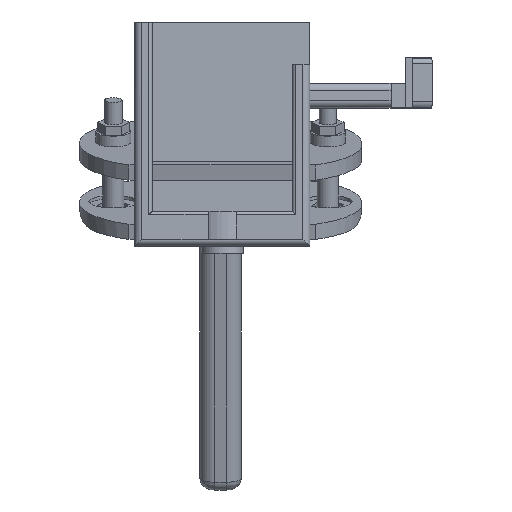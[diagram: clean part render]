
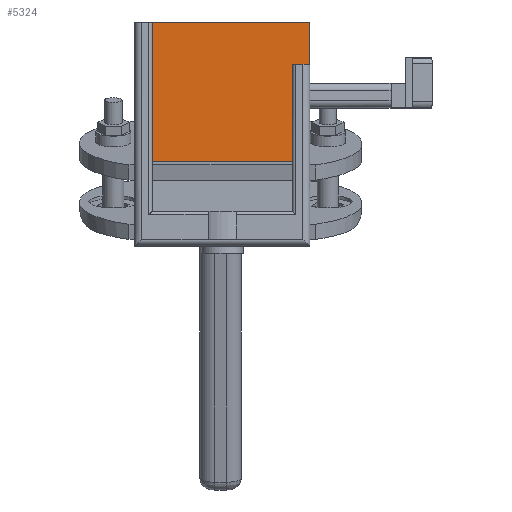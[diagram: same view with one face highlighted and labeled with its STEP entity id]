
A CAD part, top view. The second image highlights one B-rep face of the part: STEP entity #5324.
In plain terms, the highlighted planar face has unit normal (0, 0, 1).
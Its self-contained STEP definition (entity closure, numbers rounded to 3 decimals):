
#1821 = PLANE('',#1822);
#1822 = AXIS2_PLACEMENT_3D('',#1823,#1824,#1825);
#1823 = CARTESIAN_POINT('',(-43.276,26.312,
    46.517));
#1824 = DIRECTION('',(1.,0.,0.));
#1825 = DIRECTION('',(0.,0.,-1.));
#3258 = PLANE('',#3259);
#3259 = AXIS2_PLACEMENT_3D('',#3260,#3261,#3262);
#3260 = CARTESIAN_POINT('',(-46.992,26.312,
    18.808));
#3261 = DIRECTION('',(0.,1.,0.));
#3262 = DIRECTION('',(0.,0.,1.));
#3423 = EDGE_CURVE('',#3424,#3426,#3428,.T.);
#3424 = VERTEX_POINT('',#3425);
#3425 = CARTESIAN_POINT('',(-43.276,26.312,
    19.517));
#3426 = VERTEX_POINT('',#3427);
#3427 = CARTESIAN_POINT('',(-43.276,-1.448,
    19.517));
#3428 = SURFACE_CURVE('',#3429,(#3433,#3440),.PCURVE_S1.);
#3429 = LINE('',#3430,#3431);
#3430 = CARTESIAN_POINT('',(-43.276,38.312,
    19.517));
#3431 = VECTOR('',#3432,1.);
#3432 = DIRECTION('',(0.,-1.,0.));
#3433 = PCURVE('',#1821,#3434);
#3434 = DEFINITIONAL_REPRESENTATION('',(#3435),#3439);
#3435 = LINE('',#3436,#3437);
#3436 = CARTESIAN_POINT('',(27.,12.));
#3437 = VECTOR('',#3438,1.);
#3438 = DIRECTION('',(0.,-1.));
#3439 = ( GEOMETRIC_REPRESENTATION_CONTEXT(2) 
PARAMETRIC_REPRESENTATION_CONTEXT() REPRESENTATION_CONTEXT('2D SPACE',''
  ) );
#3440 = PCURVE('',#3441,#3446);
#3441 = PLANE('',#3442);
#3442 = AXIS2_PLACEMENT_3D('',#3443,#3444,#3445);
#3443 = CARTESIAN_POINT('',(-91.276,38.312,
    19.517));
#3444 = DIRECTION('',(0.,0.,-1.));
#3445 = DIRECTION('',(-1.,0.,0.));
#3446 = DEFINITIONAL_REPRESENTATION('',(#3447),#3451);
#3447 = LINE('',#3448,#3449);
#3448 = CARTESIAN_POINT('',(-48.,0.));
#3449 = VECTOR('',#3450,1.);
#3450 = DIRECTION('',(0.,-1.));
#3451 = ( GEOMETRIC_REPRESENTATION_CONTEXT(2) 
PARAMETRIC_REPRESENTATION_CONTEXT() REPRESENTATION_CONTEXT('2D SPACE',''
  ) );
#3469 = PLANE('',#3470);
#3470 = AXIS2_PLACEMENT_3D('',#3471,#3472,#3473);
#3471 = CARTESIAN_POINT('',(-26.599,10.504,
    -25.085));
#3472 = DIRECTION('',(0.,-0.966,-0.259)
  );
#3473 = DIRECTION('',(0.,0.259,-0.966
    ));
#3617 = CYLINDRICAL_SURFACE('',#3618,2.);
#3618 = AXIS2_PLACEMENT_3D('',#3619,#3620,#3621);
#3619 = CARTESIAN_POINT('',(-43.276,38.312,
    19.517));
#3620 = DIRECTION('',(0.,-1.,0.));
#3621 = DIRECTION('',(0.,0.,-1.));
#5041 = VERTEX_POINT('',#5042);
#5042 = CARTESIAN_POINT('',(-41.276,26.312,
    19.517));
#5063 = EDGE_CURVE('',#3424,#5041,#5064,.T.);
#5064 = SURFACE_CURVE('',#5065,(#5069,#5076),.PCURVE_S1.);
#5065 = LINE('',#5066,#5067);
#5066 = CARTESIAN_POINT('',(-91.276,26.312,
    19.517));
#5067 = VECTOR('',#5068,1.);
#5068 = DIRECTION('',(1.,0.,0.));
#5069 = PCURVE('',#3258,#5070);
#5070 = DEFINITIONAL_REPRESENTATION('',(#5071),#5075);
#5071 = LINE('',#5072,#5073);
#5072 = CARTESIAN_POINT('',(0.71,-44.284));
#5073 = VECTOR('',#5074,1.);
#5074 = DIRECTION('',(0.,1.));
#5075 = ( GEOMETRIC_REPRESENTATION_CONTEXT(2) 
PARAMETRIC_REPRESENTATION_CONTEXT() REPRESENTATION_CONTEXT('2D SPACE',''
  ) );
#5076 = PCURVE('',#3441,#5077);
#5077 = DEFINITIONAL_REPRESENTATION('',(#5078),#5082);
#5078 = LINE('',#5079,#5080);
#5079 = CARTESIAN_POINT('',(0.,-12.));
#5080 = VECTOR('',#5081,1.);
#5081 = DIRECTION('',(-1.,0.));
#5082 = ( GEOMETRIC_REPRESENTATION_CONTEXT(2) 
PARAMETRIC_REPRESENTATION_CONTEXT() REPRESENTATION_CONTEXT('2D SPACE',''
  ) );
#5324 = ADVANCED_FACE('',(#5325),#3441,.F.);
#5325 = FACE_BOUND('',#5326,.T.);
#5326 = EDGE_LOOP('',(#5327,#5357,#5378,#5379,#5380,#5403));
#5327 = ORIENTED_EDGE('',*,*,#5328,.F.);
#5328 = EDGE_CURVE('',#5329,#5331,#5333,.T.);
#5329 = VERTEX_POINT('',#5330);
#5330 = CARTESIAN_POINT('',(-89.276,-1.448,
    19.517));
#5331 = VERTEX_POINT('',#5332);
#5332 = CARTESIAN_POINT('',(-89.276,38.312,
    19.517));
#5333 = SURFACE_CURVE('',#5334,(#5338,#5345),.PCURVE_S1.);
#5334 = LINE('',#5335,#5336);
#5335 = CARTESIAN_POINT('',(-89.276,38.312,
    19.517));
#5336 = VECTOR('',#5337,1.);
#5337 = DIRECTION('',(0.,1.,0.));
#5338 = PCURVE('',#3441,#5339);
#5339 = DEFINITIONAL_REPRESENTATION('',(#5340),#5344);
#5340 = LINE('',#5341,#5342);
#5341 = CARTESIAN_POINT('',(-2.,0.));
#5342 = VECTOR('',#5343,1.);
#5343 = DIRECTION('',(0.,1.));
#5344 = ( GEOMETRIC_REPRESENTATION_CONTEXT(2) 
PARAMETRIC_REPRESENTATION_CONTEXT() REPRESENTATION_CONTEXT('2D SPACE',''
  ) );
#5345 = PCURVE('',#5346,#5351);
#5346 = PLANE('',#5347);
#5347 = AXIS2_PLACEMENT_3D('',#5348,#5349,#5350);
#5348 = CARTESIAN_POINT('',(-89.276,38.312,
    46.517));
#5349 = DIRECTION('',(-1.,0.,0.));
#5350 = DIRECTION('',(0.,0.,1.));
#5351 = DEFINITIONAL_REPRESENTATION('',(#5352),#5356);
#5352 = LINE('',#5353,#5354);
#5353 = CARTESIAN_POINT('',(-27.,0.));
#5354 = VECTOR('',#5355,1.);
#5355 = DIRECTION('',(0.,1.));
#5356 = ( GEOMETRIC_REPRESENTATION_CONTEXT(2) 
PARAMETRIC_REPRESENTATION_CONTEXT() REPRESENTATION_CONTEXT('2D SPACE',''
  ) );
#5357 = ORIENTED_EDGE('',*,*,#5358,.T.);
#5358 = EDGE_CURVE('',#5329,#3426,#5359,.T.);
#5359 = SURFACE_CURVE('',#5360,(#5364,#5371),.PCURVE_S1.);
#5360 = LINE('',#5361,#5362);
#5361 = CARTESIAN_POINT('',(-26.599,-1.448,
    19.517));
#5362 = VECTOR('',#5363,1.);
#5363 = DIRECTION('',(1.,0.,0.));
#5364 = PCURVE('',#3441,#5365);
#5365 = DEFINITIONAL_REPRESENTATION('',(#5366),#5370);
#5366 = LINE('',#5367,#5368);
#5367 = CARTESIAN_POINT('',(-64.676,-39.76));
#5368 = VECTOR('',#5369,1.);
#5369 = DIRECTION('',(-1.,0.));
#5370 = ( GEOMETRIC_REPRESENTATION_CONTEXT(2) 
PARAMETRIC_REPRESENTATION_CONTEXT() REPRESENTATION_CONTEXT('2D SPACE',''
  ) );
#5371 = PCURVE('',#3469,#5372);
#5372 = DEFINITIONAL_REPRESENTATION('',(#5373),#5377);
#5373 = LINE('',#5374,#5375);
#5374 = CARTESIAN_POINT('',(-46.176,0.));
#5375 = VECTOR('',#5376,1.);
#5376 = DIRECTION('',(0.,1.));
#5377 = ( GEOMETRIC_REPRESENTATION_CONTEXT(2) 
PARAMETRIC_REPRESENTATION_CONTEXT() REPRESENTATION_CONTEXT('2D SPACE',''
  ) );
#5378 = ORIENTED_EDGE('',*,*,#3423,.F.);
#5379 = ORIENTED_EDGE('',*,*,#5063,.T.);
#5380 = ORIENTED_EDGE('',*,*,#5381,.F.);
#5381 = EDGE_CURVE('',#5382,#5041,#5384,.T.);
#5382 = VERTEX_POINT('',#5383);
#5383 = CARTESIAN_POINT('',(-41.276,38.312,
    19.517));
#5384 = SURFACE_CURVE('',#5385,(#5389,#5396),.PCURVE_S1.);
#5385 = LINE('',#5386,#5387);
#5386 = CARTESIAN_POINT('',(-41.276,38.312,
    19.517));
#5387 = VECTOR('',#5388,1.);
#5388 = DIRECTION('',(0.,-1.,0.));
#5389 = PCURVE('',#3441,#5390);
#5390 = DEFINITIONAL_REPRESENTATION('',(#5391),#5395);
#5391 = LINE('',#5392,#5393);
#5392 = CARTESIAN_POINT('',(-50.,0.));
#5393 = VECTOR('',#5394,1.);
#5394 = DIRECTION('',(0.,-1.));
#5395 = ( GEOMETRIC_REPRESENTATION_CONTEXT(2) 
PARAMETRIC_REPRESENTATION_CONTEXT() REPRESENTATION_CONTEXT('2D SPACE',''
  ) );
#5396 = PCURVE('',#3617,#5397);
#5397 = DEFINITIONAL_REPRESENTATION('',(#5398),#5402);
#5398 = LINE('',#5399,#5400);
#5399 = CARTESIAN_POINT('',(1.571,0.));
#5400 = VECTOR('',#5401,1.);
#5401 = DIRECTION('',(0.,1.));
#5402 = ( GEOMETRIC_REPRESENTATION_CONTEXT(2) 
PARAMETRIC_REPRESENTATION_CONTEXT() REPRESENTATION_CONTEXT('2D SPACE',''
  ) );
#5403 = ORIENTED_EDGE('',*,*,#5404,.F.);
#5404 = EDGE_CURVE('',#5331,#5382,#5405,.T.);
#5405 = SURFACE_CURVE('',#5406,(#5410,#5417),.PCURVE_S1.);
#5406 = LINE('',#5407,#5408);
#5407 = CARTESIAN_POINT('',(-91.276,38.312,
    19.517));
#5408 = VECTOR('',#5409,1.);
#5409 = DIRECTION('',(1.,0.,0.));
#5410 = PCURVE('',#3441,#5411);
#5411 = DEFINITIONAL_REPRESENTATION('',(#5412),#5416);
#5412 = LINE('',#5413,#5414);
#5413 = CARTESIAN_POINT('',(0.,0.));
#5414 = VECTOR('',#5415,1.);
#5415 = DIRECTION('',(-1.,0.));
#5416 = ( GEOMETRIC_REPRESENTATION_CONTEXT(2) 
PARAMETRIC_REPRESENTATION_CONTEXT() REPRESENTATION_CONTEXT('2D SPACE',''
  ) );
#5417 = PCURVE('',#5418,#5423);
#5418 = CYLINDRICAL_SURFACE('',#5419,2.);
#5419 = AXIS2_PLACEMENT_3D('',#5420,#5421,#5422);
#5420 = CARTESIAN_POINT('',(-46.992,36.312,
    19.517));
#5421 = DIRECTION('',(1.,0.,0.));
#5422 = DIRECTION('',(0.,0.,-1.));
#5423 = DEFINITIONAL_REPRESENTATION('',(#5424),#5428);
#5424 = LINE('',#5425,#5426);
#5425 = CARTESIAN_POINT('',(1.571,-44.284));
#5426 = VECTOR('',#5427,1.);
#5427 = DIRECTION('',(0.,1.));
#5428 = ( GEOMETRIC_REPRESENTATION_CONTEXT(2) 
PARAMETRIC_REPRESENTATION_CONTEXT() REPRESENTATION_CONTEXT('2D SPACE',''
  ) );
